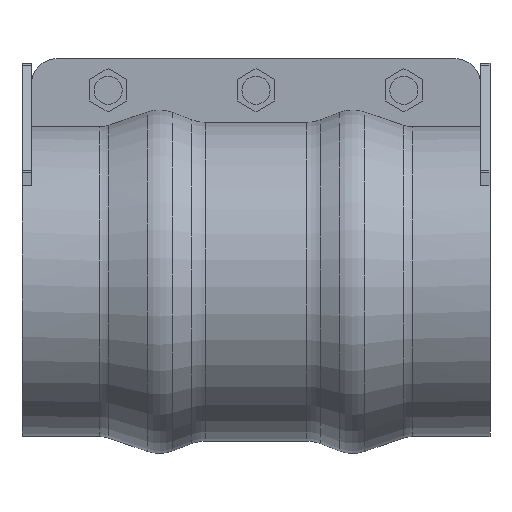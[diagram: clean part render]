
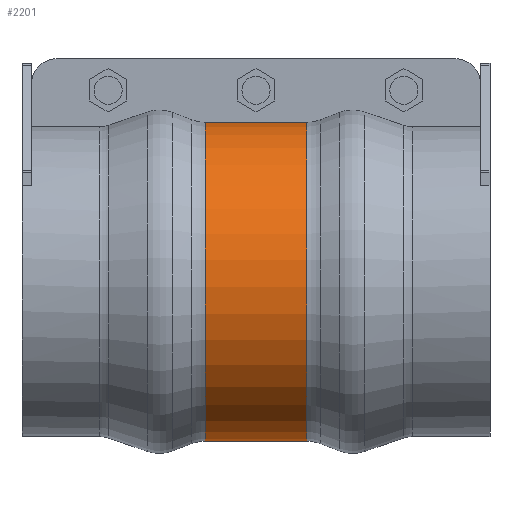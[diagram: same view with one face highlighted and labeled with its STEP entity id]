
A CAD part, front view. The second image highlights one B-rep face of the part: STEP entity #2201.
In plain terms, the highlighted cylindrical face has radius 108.265 mm (diameter 216.53 mm), a partial arc.
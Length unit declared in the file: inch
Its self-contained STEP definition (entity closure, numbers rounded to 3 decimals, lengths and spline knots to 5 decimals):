
#257=FACE_OUTER_BOUND('',#382,.T.);
#382=EDGE_LOOP('',(#1818,#1819,#1820,#1821));
#574=LINE('',#3580,#753);
#577=LINE('',#3657,#756);
#753=VECTOR('',#2893,0.3937);
#756=VECTOR('',#2904,0.3937);
#816=CIRCLE('',#2384,4.2624);
#817=CIRCLE('',#2386,4.2624);
#1017=VERTEX_POINT('',#3572);
#1018=VERTEX_POINT('',#3579);
#1029=VERTEX_POINT('',#3649);
#1030=VERTEX_POINT('',#3656);
#1290=EDGE_CURVE('',#1018,#1017,#574,.T.);
#1305=EDGE_CURVE('',#1030,#1029,#577,.T.);
#1316=EDGE_CURVE('',#1018,#1029,#816,.T.);
#1317=EDGE_CURVE('',#1017,#1030,#817,.T.);
#1818=ORIENTED_EDGE('',*,*,#1290,.T.);
#1819=ORIENTED_EDGE('',*,*,#1317,.T.);
#1820=ORIENTED_EDGE('',*,*,#1305,.T.);
#1821=ORIENTED_EDGE('',*,*,#1316,.F.);
#1994=CYLINDRICAL_SURFACE('',#2385,4.2624);
#2201=ADVANCED_FACE('',(#257),#1994,.T.);
#2384=AXIS2_PLACEMENT_3D('',#3701,#2925,#2926);
#2385=AXIS2_PLACEMENT_3D('',#3702,#2927,#2928);
#2386=AXIS2_PLACEMENT_3D('',#3703,#2929,#2930);
#2893=DIRECTION('',(-1.,0.,0.));
#2904=DIRECTION('',(1.,0.,0.));
#2925=DIRECTION('center_axis',(1.,0.,0.));
#2926=DIRECTION('ref_axis',(0.,0.,-1.));
#2927=DIRECTION('center_axis',(1.,0.,0.));
#2928=DIRECTION('ref_axis',(0.,0.,
-1.));
#2929=DIRECTION('center_axis',(1.,0.,0.));
#2930=DIRECTION('ref_axis',(0.,0.,-1.));
#3572=CARTESIAN_POINT('',(-1.35516,-0.3125,4.25093));
#3579=CARTESIAN_POINT('',(1.35516,-0.3125,4.25093));
#3580=CARTESIAN_POINT('',(0.,-0.3125,4.25093));
#3649=CARTESIAN_POINT('',(1.35516,0.3125,4.25093));
#3656=CARTESIAN_POINT('',(-1.35516,0.3125,4.25093));
#3657=CARTESIAN_POINT('',(0.,0.3125,4.25093));
#3701=CARTESIAN_POINT('Origin',(1.35516,0.,0.));
#3702=CARTESIAN_POINT('Origin',(0.,0.,0.));
#3703=CARTESIAN_POINT('Origin',(-1.35516,0.,
0.));
